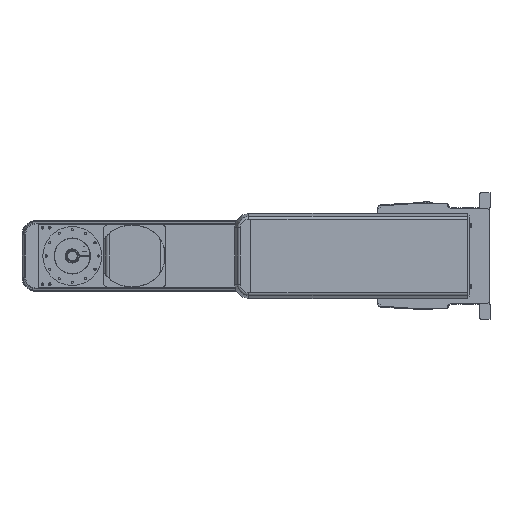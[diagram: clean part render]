
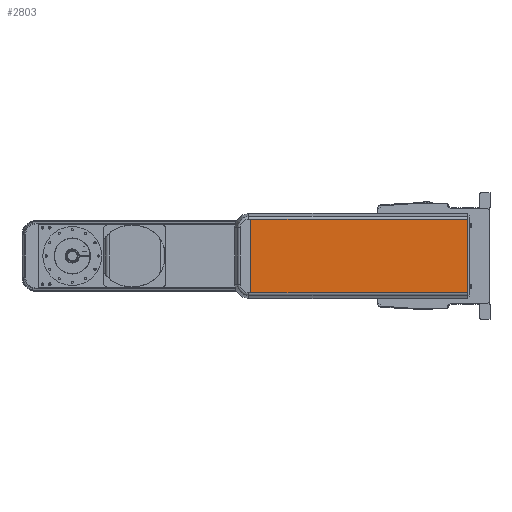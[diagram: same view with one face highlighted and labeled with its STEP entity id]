
A CAD part, front view. The second image highlights one B-rep face of the part: STEP entity #2803.
In plain terms, the highlighted planar face has unit normal (0, -1, 0).
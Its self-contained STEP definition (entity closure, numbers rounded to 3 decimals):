
#2803 = ADVANCED_FACE( '', ( #6238 ), #6239, .F. );
#6238 = FACE_OUTER_BOUND( '', #10410, .T. );
#6239 = PLANE( '', #10411 );
#10410 = EDGE_LOOP( '', ( #18216, #18217, #18218, #18219 ) );
#10411 = AXIS2_PLACEMENT_3D( '', #18220, #18221, #18222 );
#18216 = ORIENTED_EDGE( '', *, *, #21618, .F. );
#18217 = ORIENTED_EDGE( '', *, *, #24555, .T. );
#18218 = ORIENTED_EDGE( '', *, *, #22467, .T. );
#18219 = ORIENTED_EDGE( '', *, *, #23123, .F. );
#18220 = CARTESIAN_POINT( '', ( 68., -71.5, 52.065 ) );
#18221 = DIRECTION( '', ( 0., 1., 0. ) );
#18222 = DIRECTION( '', ( 0., 0., 1. ) );
#21618 = EDGE_CURVE( '', #25331, #25333, #25334, .T. );
#22467 = EDGE_CURVE( '', #26806, #26804, #26807, .T. );
#23123 = EDGE_CURVE( '', #25333, #26804, #27865, .T. );
#24555 = EDGE_CURVE( '', #25331, #26806, #29871, .T. );
#25331 = VERTEX_POINT( '', #30776 );
#25333 = VERTEX_POINT( '', #30779 );
#25334 = LINE( '', #30780, #30781 );
#26804 = VERTEX_POINT( '', #33035 );
#26806 = VERTEX_POINT( '', #33038 );
#26807 = LINE( '', #33039, #33040 );
#27865 = LINE( '', #34549, #34550 );
#29871 = LINE( '', #37722, #37723 );
#30776 = CARTESIAN_POINT( '', ( 58., -71.5, 52.065 ) );
#30779 = CARTESIAN_POINT( '', ( 58., -71.5, -52.065 ) );
#30780 = CARTESIAN_POINT( '', ( 58., -71.5, 52.065 ) );
#30781 = VECTOR( '', #38935, 1000. );
#33035 = CARTESIAN_POINT( '', ( -248., -71.5, -52.065 ) );
#33038 = CARTESIAN_POINT( '', ( -248., -71.5, 52.065 ) );
#33039 = CARTESIAN_POINT( '', ( -248., -71.5, 52.065 ) );
#33040 = VECTOR( '', #40097, 1000. );
#34549 = CARTESIAN_POINT( '', ( 68., -71.5, -52.065 ) );
#34550 = VECTOR( '', #40974, 1000. );
#37722 = CARTESIAN_POINT( '', ( 68., -71.5, 52.065 ) );
#37723 = VECTOR( '', #42494, 1000. );
#38935 = DIRECTION( '', ( 0., 0., -1. ) );
#40097 = DIRECTION( '', ( 0., 0., -1. ) );
#40974 = DIRECTION( '', ( -1., 0., 0. ) );
#42494 = DIRECTION( '', ( -1., 0., 0. ) );
